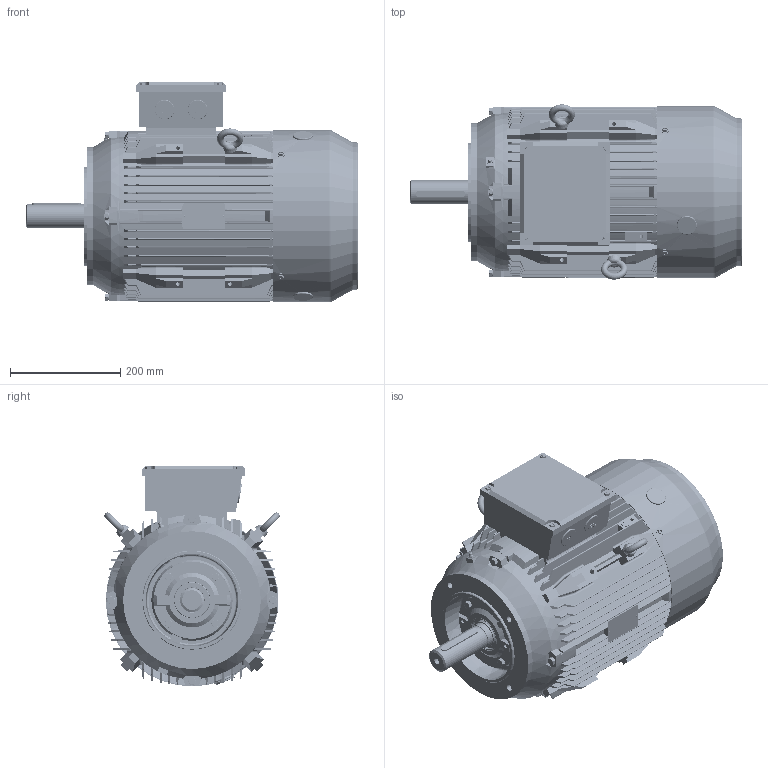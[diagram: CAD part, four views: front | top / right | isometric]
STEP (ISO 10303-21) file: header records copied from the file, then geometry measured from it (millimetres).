
FILE_DESCRIPTION (( 'STEP AP214' ), '1' );
FILE_NAME ('BCT4150.16F214.11.step', '2020-04-23T13:36:06', ( '' ), ( '' ), 'SwSTEP 2.0', 'SolidWorks 2019', '' );
FILE_SCHEMA (( 'AUTOMOTIVE_DESIGN' ));
Length unit declared in the file: millimetre
Products named in the file (1): BCT4150.16F214.11
Bounding box: 602.5 x 318.13 x 400.5 mm (x, y, z)
Volume: 8063480.7 mm3; surface area: 2627698.8 mm2
Topology: 51 solids, 52 shells, 6750 faces, 19309 edges, 12608 vertices
Faces by surface type: plane 3197, cylinder 2526, cone 437, torus 361, bspline 125, sphere 104
Entity records: 262930 total; most frequent: CARTESIAN_POINT 84673, ORIENTED_EDGE 38190, DIRECTION 36162, EDGE_CURVE 19095, AXIS2_PLACEMENT_3D 12743, VERTEX_POINT 12556, VECTOR 10676, LINE 10676
